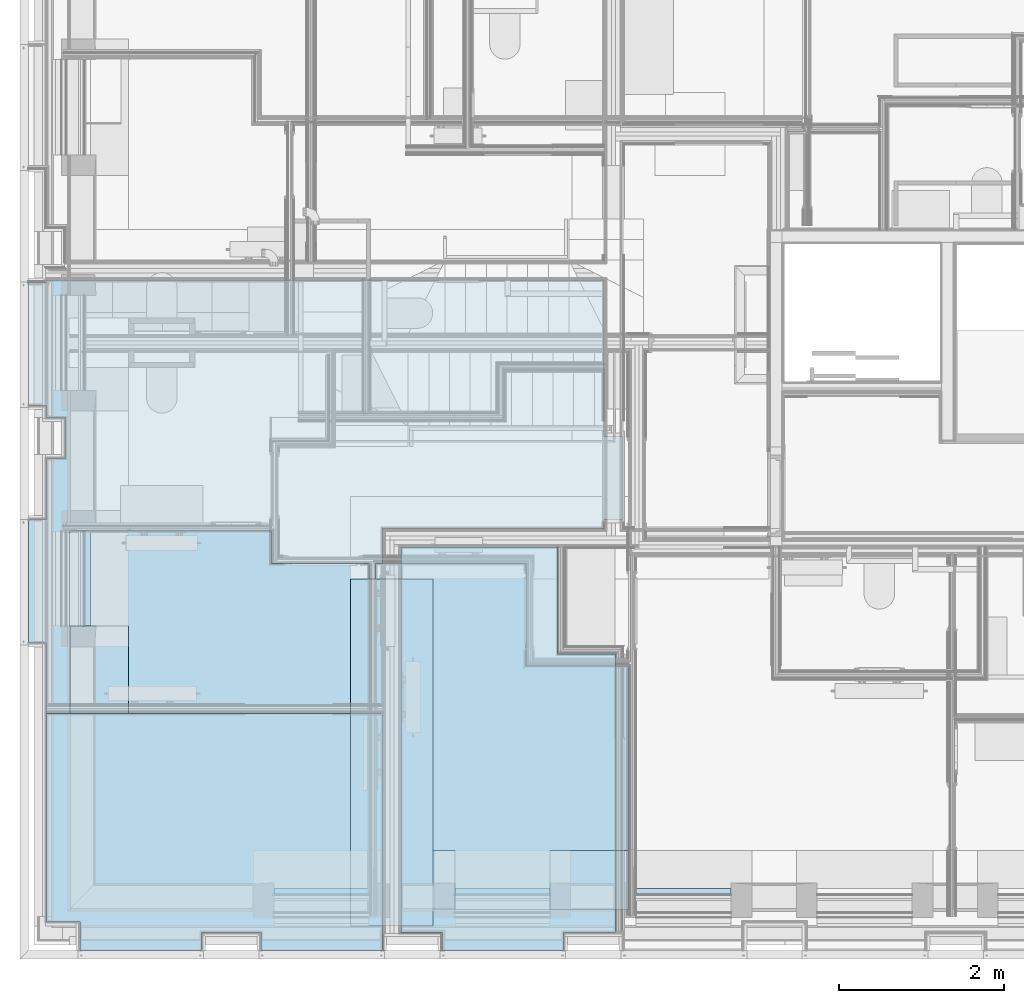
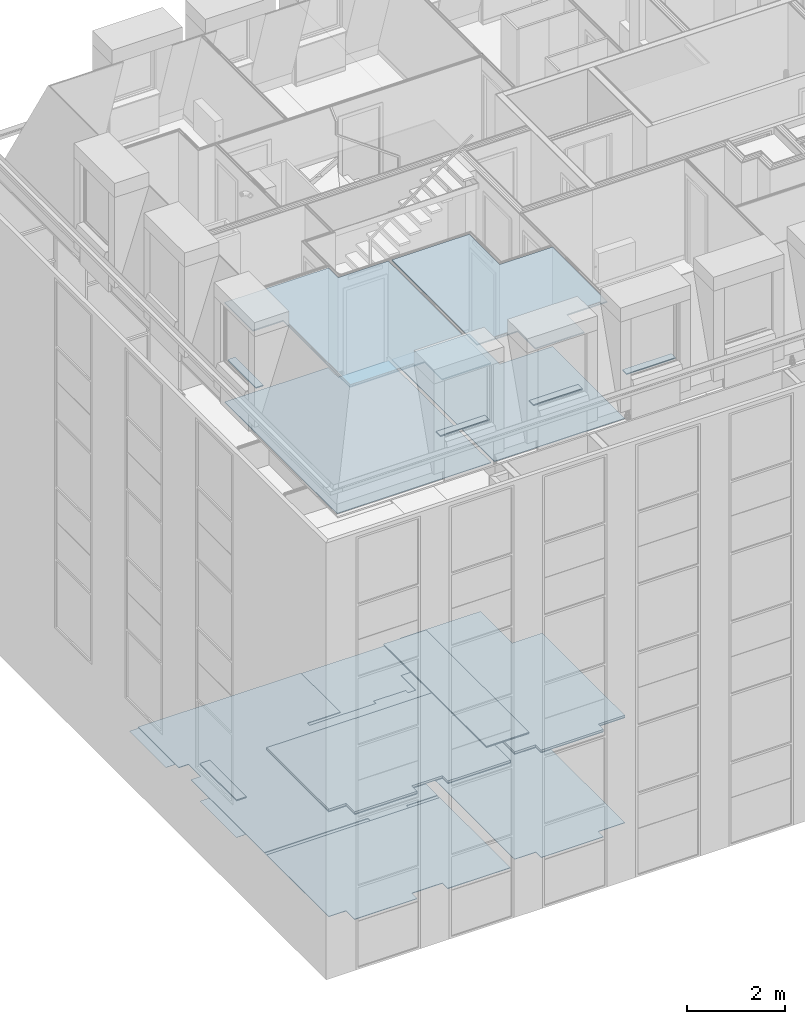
# One storey, part 68 of 169: 23 slabs.
"""IFC2X3 building model written with IfcOpenShell, lengths in metres."""

import ifcopenshell
import ifcopenshell.guid

model = None  # the IFC model being written
_history = None  # IfcOwnerHistory: only IFC2X3 demands one
_inside = {}  # id of a spatial element -> (the spatial element, [elements in it])
_under = {}  # id of a project, library or spatial element -> (it, [spatial elements below it])
_declared = {}  # id of a project -> (the project, [libraries it declares])
_typed = {}  # id of a type object -> (the type object, [elements of that type])
_made_of = {}  # id of a material, layer set ... -> (it, [elements and type objects made of it])


def new_model(schema):
    """Start an empty IFC model of exactly this schema.

    Asked for "IFC4X3", IfcOpenShell would pick the latest addendum, in which some entities
    have other attributes; the version numbers below select the first issue.
    IFC2X3 requires an IfcOwnerHistory on every rooted entity: one is made here for all.
    """
    global model, _history
    if schema == "IFC4X3":
        model = ifcopenshell.file(schema_version=(4, 3, 0, 0))
    else:
        model = ifcopenshell.file(schema=schema)
    _inside.clear()
    _under.clear()
    _declared.clear()
    _typed.clear()
    _made_of.clear()
    _history = None
    if model.schema == "IFC2X3":
        org = make("IfcOrganization", Name="unknown")
        user = make(
            "IfcPersonAndOrganization",
            ThePerson=make("IfcPerson", FamilyName="unknown"),
            TheOrganization=org,
        )
        app = make(
            "IfcApplication",
            ApplicationDeveloper=org,
            Version="unknown",
            ApplicationFullName="unknown",
            ApplicationIdentifier="unknown",
        )
        _history = make(
            "IfcOwnerHistory",
            OwningUser=user,
            OwningApplication=app,
            ChangeAction="ADDED",
            CreationDate=0,
        )
    return model


def make(cls, **values):
    """One entity of the class cls with the attributes given. An attribute that is None is left unset."""
    return model.create_entity(
        cls, **{name: value for name, value in values.items() if value is not None}
    )


def entity(cls, *values):
    """Any entity or typed value of the class cls, its attributes in the order of the schema. None: left unset."""
    e = model.create_entity(cls)
    for i, value in enumerate(values):
        if value is not None:
            e[i] = value
    return e


def rooted(cls, **values):
    """An entity with a GlobalId (a new one), such as an element, a storey or a relation."""
    return make(cls, GlobalId=ifcopenshell.guid.new(), OwnerHistory=_history, **values)


def si_unit(unit_type, name, prefix=None):
    """IfcSIUnit, for example si_unit("LENGTHUNIT", "METRE", prefix="MILLI")."""
    return make("IfcSIUnit", UnitType=unit_type, Prefix=prefix, Name=name)


def converted_unit(unit_type, name, factor, base, dimensions=None, offset=None):
    """IfcConversionBasedUnit, such as the inch: factor (a typed value) times the base unit."""
    return make(
        "IfcConversionBasedUnit"
        if offset is None
        else "IfcConversionBasedUnitWithOffset",
        ConversionOffset=offset,
        Dimensions=None
        if dimensions is None
        else entity("IfcDimensionalExponents", *dimensions),
        UnitType=unit_type,
        Name=name,
        ConversionFactor=make(
            "IfcMeasureWithUnit", ValueComponent=factor, UnitComponent=base
        ),
    )


def derived_unit(unit_type, elements):
    """IfcDerivedUnit: a product of units, each with its exponent."""
    return make(
        "IfcDerivedUnit",
        Elements=[
            make("IfcDerivedUnitElement", Unit=unit, Exponent=power)
            for unit, power in elements
        ],
        UnitType=unit_type,
    )


def money_unit(currency):
    """IfcMonetaryUnit."""
    return make("IfcMonetaryUnit", Currency=currency)


def assignment(units):
    """IfcUnitAssignment: the units of a project."""
    return None if units is None else make("IfcUnitAssignment", Units=units)


def point(xyz):
    """IfcCartesianPoint."""
    return None if xyz is None else make("IfcCartesianPoint", Coordinates=xyz)


def direction(xyz):
    """IfcDirection."""
    return None if xyz is None else make("IfcDirection", DirectionRatios=xyz)


def frame(location, z_axis=None, x_axis=None):
    """IfcAxis2Placement3D, a coordinate frame: its origin and axes. An axis left out is left unset."""
    return make(
        "IfcAxis2Placement3D",
        Location=point(location),
        Axis=direction(z_axis),
        RefDirection=direction(x_axis),
    )


def origin_with_axes():
    """The frame at (0, 0, 0) with the z axis (0, 0, 1) and the x axis (1, 0, 0) written out."""
    return frame((0.0, 0.0, 0.0), z_axis=(0.0, 0.0, 1.0), x_axis=(1.0, 0.0, 0.0))


def place(relative_to, where):
    """IfcLocalPlacement: puts the frame where relative to a parent placement (None: the world)."""
    return make(
        "IfcLocalPlacement", PlacementRelTo=relative_to, RelativePlacement=where
    )


def context(
    kind, dimensions, precision=None, world=None, true_north=None, identifier=None
):
    """IfcGeometricRepresentationContext, for example the 3D "Model" context."""
    return make(
        "IfcGeometricRepresentationContext",
        ContextIdentifier=identifier,
        ContextType=kind,
        CoordinateSpaceDimension=dimensions,
        Precision=precision,
        WorldCoordinateSystem=world,
        TrueNorth=true_north,
    )


def subcontext(parent, identifier, kind, view, scale=None):
    """IfcGeometricRepresentationSubContext, for example "Body" below "Model"."""
    return make(
        "IfcGeometricRepresentationSubContext",
        ContextIdentifier=identifier,
        ContextType=kind,
        ParentContext=parent,
        TargetScale=scale,
        TargetView=view,
    )


def project(units=None, contexts=None):
    """IfcProject with its units and contexts."""
    return rooted(
        "IfcProject",
        Name="project",
        RepresentationContexts=contexts,
        UnitsInContext=assignment(units),
    )


def spatial(cls, under=None, at=None, **own):
    """A site, building, storey or space (cls), placed at a placement, below another one or the project."""
    s = rooted(cls, ObjectPlacement=at, **own)
    if under is not None:
        _under.setdefault(under.id(), (under, []))[1].append(s)
    return s


def faces_of(points, faces, orient=None, outer=None):
    """IfcFace entities. A face is a list of loops; a loop is a list of indices into points, from 0.

    orient and outer hold one flag for each loop. By default every Orientation is true, the
    first loop of a face is its IfcFaceOuterBound and the others are IfcFaceBound.
    """
    made = []
    for i, loops in enumerate(faces):
        bounds = []
        for j, loop in enumerate(loops):
            is_outer = j == 0 if outer is None else outer[i][j]
            bounds.append(
                make(
                    "IfcFaceOuterBound" if is_outer else "IfcFaceBound",
                    Bound=make("IfcPolyLoop", Polygon=[points[k] for k in loop]),
                    Orientation=True if orient is None else orient[i][j],
                )
            )
        made.append(make("IfcFace", Bounds=bounds))
    return made


def faceted_brep(points, faces, orient=None, outer=None, voids=None):
    """IfcFacetedBrep: a solid bounded by flat faces; with voids (closed shells), ...WithVoids."""
    shared = [point(p) for p in points]
    hull = make("IfcClosedShell", CfsFaces=faces_of(shared, faces, orient, outer))
    if voids is None:
        return make("IfcFacetedBrep", Outer=hull)
    return make(
        "IfcFacetedBrepWithVoids",
        Outer=hull,
        Voids=[
            make(cls, CfsFaces=faces_of(shared, fs, o, b)) for cls, fs, o, b in voids
        ],
    )


def shape(context_of_items, identifier, shape_type, items):
    """IfcShapeRepresentation: the items that make up one representation, for example the "Body"."""
    return make(
        "IfcShapeRepresentation",
        ContextOfItems=context_of_items,
        RepresentationIdentifier=identifier,
        RepresentationType=shape_type,
        Items=items,
    )


def material(Name=None, Category=None):
    """IfcMaterial."""
    return make("IfcMaterial", Name=Name, Category=Category)


def made_of(thing, what):
    """Note that an element or type object is made of a material, layer set ...; save() writes the relation."""
    if what is not None:
        _made_of.setdefault(what.id(), (what, []))[1].append(thing)
    return thing


def type_object(cls, material=None, **own):
    """A type object (cls), such as IfcWallType, which elements share."""
    return made_of(rooted(cls, **own), material)


def element(
    cls,
    number,
    at=None,
    inside=None,
    cuts=None,
    type_object=None,
    material=None,
    context=None,
    identifier="Body",
    shape_type=None,
    held_by="IfcProductDefinitionShape",
    body=None,
    shapes=None,
    **own,
):
    """One element of the class cls, such as IfcWall. Its Tag is "e" and its number.

    at: its placement. inside: the storey or other place that contains it. cuts: it is an
    opening in that element (IfcRelVoidsElement). A single representation is given by context,
    identifier, shape_type and body (its items); several are given by shapes. held_by: the class
    of the entity that holds the representations. save() writes the other relations.
    """
    e = rooted(cls, Tag="e%d" % number, ObjectPlacement=at, **own)
    if body is not None:
        shapes = [shape(context, identifier, shape_type, body)]
    if shapes is not None:
        e.Representation = make(held_by, Representations=shapes)
    if inside is not None:
        _inside.setdefault(inside.id(), (inside, []))[1].append(e)
    if cuts is not None:
        rooted(
            "IfcRelVoidsElement", RelatingBuildingElement=cuts, RelatedOpeningElement=e
        )
    if type_object is not None:
        _typed.setdefault(type_object.id(), (type_object, []))[1].append(e)
    return made_of(e, material)


def aggregate(whole, parts):
    """IfcRelAggregates: a whole, such as a stair, and the parts it consists of."""
    return rooted("IfcRelAggregates", RelatingObject=whole, RelatedObjects=parts)


def save(model, path):
    """Write the relations noted so far, then the file.

    IfcRelAggregates (storeys below a building ...), IfcRelContainedInSpatialStructure (elements
    in a storey), IfcRelDefinesByType, IfcRelAssociatesMaterial and IfcRelDeclares: one each for
    every whole, place, type object, material and project.
    """
    for whole, parts in _under.values():
        aggregate(whole, parts)
    for where, things in _inside.values():
        rooted(
            "IfcRelContainedInSpatialStructure",
            RelatedElements=things,
            RelatingStructure=where,
        )
    for kind, things in _typed.values():
        rooted("IfcRelDefinesByType", RelatedObjects=things, RelatingType=kind)
    for what, things in _made_of.values():
        rooted("IfcRelAssociatesMaterial", RelatedObjects=things, RelatingMaterial=what)
    for by, libraries in _declared.values():
        rooted("IfcRelDeclares", RelatingContext=by, RelatedDefinitions=libraries)
    model.write(path)


model = new_model("IFC2X3")

# Units and contexts
model_context = context("Model", 3, precision=1e-05, world=origin_with_axes(), true_north=direction((0.0, 1.0)))
body_context = subcontext(model_context, "Body", "Model", "MODEL_VIEW", scale=1.0)
ifc_project = project(units=[si_unit("LENGTHUNIT", "METRE"), si_unit("AREAUNIT", "SQUARE_METRE"), si_unit("VOLUMEUNIT", "CUBIC_METRE"), si_unit("ABSORBEDDOSEUNIT", "GRAY"), si_unit("AMOUNTOFSUBSTANCEUNIT", "MOLE"), si_unit("DOSEEQUIVALENTUNIT", "SIEVERT"), si_unit("ELECTRICCAPACITANCEUNIT", "FARAD"), si_unit("ELECTRICCHARGEUNIT", "COULOMB"), si_unit("ELECTRICCONDUCTANCEUNIT", "SIEMENS"), si_unit("ELECTRICCURRENTUNIT", "AMPERE"), si_unit("ELECTRICRESISTANCEUNIT", "OHM"), si_unit("ELECTRICVOLTAGEUNIT", "VOLT"), si_unit("ENERGYUNIT", "JOULE"), si_unit("FORCEUNIT", "NEWTON"), si_unit("FREQUENCYUNIT", "HERTZ"), si_unit("ILLUMINANCEUNIT", "LUX"), si_unit("INDUCTANCEUNIT", "HENRY"), si_unit("LUMINOUSFLUXUNIT", "LUMEN"), si_unit("LUMINOUSINTENSITYUNIT", "CANDELA"), si_unit("MAGNETICFLUXDENSITYUNIT", "TESLA"), si_unit("MAGNETICFLUXUNIT", "WEBER"), si_unit("MASSUNIT", "GRAM"), converted_unit("PLANEANGLEUNIT", "degree", entity("IfcReal", 0.0174532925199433), si_unit("PLANEANGLEUNIT", "RADIAN"), dimensions=[0, 0, 0, 0, 0, 0, 0]), si_unit("POWERUNIT", "WATT"), si_unit("PRESSUREUNIT", "PASCAL"), si_unit("RADIOACTIVITYUNIT", "BECQUEREL"), si_unit("SOLIDANGLEUNIT", "STERADIAN"), si_unit("THERMODYNAMICTEMPERATUREUNIT", "KELVIN"), si_unit("TIMEUNIT", "SECOND"), derived_unit("ACCELERATIONUNIT", [(si_unit("LENGTHUNIT", "METRE"), 1), (si_unit("TIMEUNIT", "SECOND"), -2)]), derived_unit("ANGULARVELOCITYUNIT", [(converted_unit("PLANEANGLEUNIT", "degree", entity("IfcReal", 0.0174532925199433), si_unit("PLANEANGLEUNIT", "RADIAN"), dimensions=[0, 0, 0, 0, 0, 0, 0]), 1), (si_unit("TIMEUNIT", "SECOND"), -1)]), derived_unit("CURVATUREUNIT", [(converted_unit("PLANEANGLEUNIT", "degree", entity("IfcReal", 0.0174532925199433), si_unit("PLANEANGLEUNIT", "RADIAN"), dimensions=[0, 0, 0, 0, 0, 0, 0]), 1), (si_unit("LENGTHUNIT", "METRE"), -1)]), derived_unit("DYNAMICVISCOSITYUNIT", [(si_unit("PRESSUREUNIT", "PASCAL"), 1), (si_unit("TIMEUNIT", "SECOND"), 1)]), derived_unit("HEATFLUXDENSITYUNIT", [(si_unit("POWERUNIT", "WATT"), 1), (si_unit("LENGTHUNIT", "METRE"), -2)]), derived_unit("HEATINGVALUEUNIT", [(si_unit("ENERGYUNIT", "JOULE"), 1), (si_unit("MASSUNIT", "GRAM"), -1)]), derived_unit("INTEGERCOUNTRATEUNIT", [(si_unit("TIMEUNIT", "SECOND"), -1)]), derived_unit("IONCONCENTRATIONUNIT", [(si_unit("MASSUNIT", "GRAM"), 1), (si_unit("VOLUMEUNIT", "CUBIC_METRE"), -1)]), derived_unit("ISOTHERMALMOISTURECAPACITYUNIT", [(si_unit("VOLUMEUNIT", "CUBIC_METRE"), 1), (si_unit("MASSUNIT", "GRAM"), -1)]), derived_unit("KINEMATICVISCOSITYUNIT", [(si_unit("AREAUNIT", "SQUARE_METRE"), 1), (si_unit("TIMEUNIT", "SECOND"), -1)]), derived_unit("LINEARFORCEUNIT", [(si_unit("FORCEUNIT", "NEWTON"), 1), (si_unit("LENGTHUNIT", "METRE"), -1)]), derived_unit("LINEARMOMENTUNIT", [(si_unit("FORCEUNIT", "NEWTON"), 1), (si_unit("LENGTHUNIT", "METRE"), -1)]), derived_unit("LINEARSTIFFNESSUNIT", [(si_unit("FORCEUNIT", "NEWTON"), 1), (si_unit("LENGTHUNIT", "METRE"), -1)]), derived_unit("LINEARVELOCITYUNIT", [(si_unit("LENGTHUNIT", "METRE"), 1), (si_unit("TIMEUNIT", "SECOND"), -1)]), derived_unit("LUMINOUSINTENSITYDISTRIBUTIONUNIT", [(si_unit("LUMINOUSINTENSITYUNIT", "CANDELA"), 1), (si_unit("LUMINOUSFLUXUNIT", "LUMEN"), -1)]), derived_unit("MASSDENSITYUNIT", [(si_unit("MASSUNIT", "GRAM"), 1), (si_unit("VOLUMEUNIT", "CUBIC_METRE"), -1)]), derived_unit("MASSFLOWRATEUNIT", [(si_unit("MASSUNIT", "GRAM"), 1), (si_unit("TIMEUNIT", "SECOND"), -1)]), derived_unit("MASSPERLENGTHUNIT", [(si_unit("MASSUNIT", "GRAM"), 1), (si_unit("LENGTHUNIT", "METRE"), -1)]), derived_unit("MODULUSOFELASTICITYUNIT", [(si_unit("FORCEUNIT", "NEWTON"), 1), (si_unit("AREAUNIT", "SQUARE_METRE"), -1)]), derived_unit("MODULUSOFLINEARSUBGRADEREACTIONUNIT", [(si_unit("FORCEUNIT", "NEWTON"), 1), (si_unit("LENGTHUNIT", "METRE"), -2)]), derived_unit("MODULUSOFROTATIONALSUBGRADEREACTIONUNIT", [(si_unit("FORCEUNIT", "NEWTON"), 1), (si_unit("LENGTHUNIT", "METRE"), 1)]), derived_unit("MODULUSOFSUBGRADEREACTIONUNIT", [(si_unit("FORCEUNIT", "NEWTON"), 1), (si_unit("VOLUMEUNIT", "CUBIC_METRE"), -1)]), derived_unit("MOISTUREDIFFUSIVITYUNIT", [(si_unit("VOLUMEUNIT", "CUBIC_METRE"), 1), (si_unit("TIMEUNIT", "SECOND"), -1)]), derived_unit("MOLECULARWEIGHTUNIT", [(si_unit("MASSUNIT", "GRAM"), 1), (si_unit("AMOUNTOFSUBSTANCEUNIT", "MOLE"), -1)]), derived_unit("PLANARFORCEUNIT", [(si_unit("FORCEUNIT", "NEWTON"), 1), (si_unit("LENGTHUNIT", "METRE"), -2)]), derived_unit("ROTATIONALFREQUENCYUNIT", [(si_unit("TIMEUNIT", "SECOND"), -1)]), derived_unit("ROTATIONALMASSUNIT", [(si_unit("MASSUNIT", "GRAM"), 1), (si_unit("LENGTHUNIT", "METRE"), 2)]), derived_unit("ROTATIONALSTIFFNESSUNIT", [(si_unit("FORCEUNIT", "NEWTON"), 1), (si_unit("LENGTHUNIT", "METRE"), 1), (converted_unit("PLANEANGLEUNIT", "degree", entity("IfcReal", 0.0174532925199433), si_unit("PLANEANGLEUNIT", "RADIAN"), dimensions=[0, 0, 0, 0, 0, 0, 0]), -1)]), derived_unit("SECTIONAREAINTEGRALUNIT", [(si_unit("LENGTHUNIT", "METRE"), 5)]), derived_unit("SECTIONMODULUSUNIT", [(si_unit("LENGTHUNIT", "METRE"), 3)]), derived_unit("SHEARMODULUSUNIT", [(si_unit("FORCEUNIT", "NEWTON"), 1), (si_unit("AREAUNIT", "SQUARE_METRE"), -1)]), derived_unit("SOUNDPOWERUNIT", [(si_unit("ENERGYUNIT", "JOULE"), 1), (si_unit("TIMEUNIT", "SECOND"), -1)]), derived_unit("SPECIFICHEATCAPACITYUNIT", [(si_unit("FORCEUNIT", "NEWTON"), 1), (si_unit("MASSUNIT", "GRAM"), -1), (si_unit("THERMODYNAMICTEMPERATUREUNIT", "KELVIN"), -1)]), derived_unit("TEMPERATUREGRADIENTUNIT", [(si_unit("THERMODYNAMICTEMPERATUREUNIT", "KELVIN"), 1), (si_unit("LENGTHUNIT", "METRE"), -1)]), derived_unit("THERMALADMITTANCEUNIT", [(si_unit("POWERUNIT", "WATT"), 1), (si_unit("AREAUNIT", "SQUARE_METRE"), -1), (si_unit("THERMODYNAMICTEMPERATUREUNIT", "KELVIN"), -1)]), derived_unit("THERMALCONDUCTANCEUNIT", [(si_unit("POWERUNIT", "WATT"), 1), (si_unit("LENGTHUNIT", "METRE"), -1), (si_unit("THERMODYNAMICTEMPERATUREUNIT", "KELVIN"), -1)]), derived_unit("THERMALEXPANSIONCOEFFICIENTUNIT", [(si_unit("THERMODYNAMICTEMPERATUREUNIT", "KELVIN"), -1)]), derived_unit("THERMALRESISTANCEUNIT", [(si_unit("AREAUNIT", "SQUARE_METRE"), 1), (si_unit("POWERUNIT", "WATT"), -1)]), derived_unit("THERMALTRANSMITTANCEUNIT", [(si_unit("POWERUNIT", "WATT"), 1), (si_unit("AREAUNIT", "SQUARE_METRE"), -1), (si_unit("THERMODYNAMICTEMPERATUREUNIT", "KELVIN"), -1)]), derived_unit("TORQUEUNIT", [(si_unit("FORCEUNIT", "NEWTON"), 1), (si_unit("LENGTHUNIT", "METRE"), 1)]), derived_unit("VAPORPERMEABILITYUNIT", [(si_unit("MASSUNIT", "GRAM"), 1), (si_unit("TIMEUNIT", "SECOND"), -1)]), derived_unit("VOLUMETRICFLOWRATEUNIT", [(si_unit("VOLUMEUNIT", "CUBIC_METRE"), 1), (si_unit("TIMEUNIT", "SECOND"), -1)]), derived_unit("WARPINGCONSTANTUNIT", [(si_unit("LENGTHUNIT", "METRE"), 6)]), derived_unit("WARPINGMOMENTUNIT", [(si_unit("FORCEUNIT", "NEWTON"), 1), (si_unit("LENGTHUNIT", "METRE"), 2)]), money_unit("GBP")], contexts=[model_context])

# Site, building, storey
site_placement = place(None, origin_with_axes())
site = spatial("IfcSite", under=ifc_project, at=site_placement, Name="Site", CompositionType="ELEMENT")
building_placement = place(site_placement, origin_with_axes())
building = spatial("IfcBuilding", under=site, at=building_placement, Name="Building01", CompositionType="ELEMENT")
storey_placement = place(building_placement, frame((0.0, 0.0, 5.15), z_axis=(0.0, 0.0, 1.0), x_axis=(1.0, 0.0, 0.0)))
storey = spatial("IfcBuildingStorey", under=building, at=storey_placement, Name="1F", CompositionType="ELEMENT", Elevation=5.15)

# Slabs
ifc_material_1 = material(Name="A_BSUK_ExpandedPolystyreneBoards")
slab_type_1 = type_object("IfcSlabType", Name="A-FloorsSlabs A_BSUK_Slabs", PredefinedType="FLOOR")
placement = place(storey_placement, frame((0.0, 0.0, -5.15), z_axis=(0.0, 0.0, 1.0), x_axis=(1.0, 0.0, 0.0)))
element("IfcSlab", 1, at=placement, inside=storey, type_object=slab_type_1, material=ifc_material_1, Name="A-FloorsSlabs A_BSUK_Slabs", ObjectType="CompoundSlabLeaf", context=body_context, shape_type="Brep", body=[
    faceted_brep([(0.318, 8.21067, 5.15), (0.318, 8.21067, 5.153), (7.064669, 8.21067, 5.153), (7.064669, 8.21067, 5.15), (0.318, 8.185, 5.15), (0.318, 8.185, 5.153), (0.1, 8.185, 5.15), (0.1, 8.185, 5.153), (0.1, 6.69218, 5.15), (0.1, 6.69218, 5.153), (0.318, 6.69218, 5.15), (0.318, 6.69218, 5.153), (0.318, 6.548, 5.15), (0.318, 6.548, 5.153), (0.548, 6.548, 5.15), (0.548, 6.548, 5.153), (0.548, 6.052, 5.15), (0.548, 6.052, 5.153), (0.318, 6.052, 5.15), (0.318, 6.052, 5.153), (0.318, 5.315, 5.15), (0.318, 5.315, 5.153), (0.1, 5.315, 5.15), (0.1, 5.315, 5.153), (0.1, 3.82218, 5.15), (0.1, 3.82218, 5.153), (0.318, 3.82218, 5.15), (0.318, 3.82218, 5.153), (0.318, 0.448, 5.15), (0.318, 0.448, 5.153), (0.725, 0.448, 5.15), (0.725, 0.448, 5.153), (0.725, 0.1, 5.15), (0.725, 0.1, 5.153), (2.195, 0.1, 5.15), (2.195, 0.1, 5.153), (2.195, 0.318, 5.15), (2.195, 0.318, 5.153), (2.915, 0.318, 5.15), (2.915, 0.318, 5.153), (2.915, 0.1, 5.15), (2.915, 0.1, 5.153), (4.385, 0.1, 5.15), (4.385, 0.1, 5.153), (4.385, 0.318, 5.15), (4.385, 0.318, 5.153), (4.385, 5.205, 5.15), (4.385, 5.205, 5.153), (7.064669, 5.205, 5.15), (7.064669, 5.205, 5.153), (7.064669, 5.316475, 5.15), (7.064669, 5.316475, 5.153), (7.289669, 5.316475, 5.15), (7.289669, 5.316475, 5.153), (7.289669, 6.316475, 5.15), (7.289669, 6.316475, 5.153), (7.064669, 6.316475, 5.15), (7.064669, 6.316475, 5.153)], [[[0, 1, 2, 3]], [[4, 5, 1, 0]], [[6, 7, 5, 4]], [[8, 9, 7, 6]], [[10, 11, 9, 8]], [[12, 13, 11, 10]], [[14, 15, 13, 12]], [[16, 17, 15, 14]], [[18, 19, 17, 16]], [[20, 21, 19, 18]], [[22, 23, 21, 20]], [[24, 25, 23, 22]], [[26, 27, 25, 24]], [[28, 29, 27, 26]], [[30, 31, 29, 28]], [[32, 33, 31, 30]], [[34, 35, 33, 32]], [[36, 37, 35, 34]], [[38, 39, 37, 36]], [[40, 41, 39, 38]], [[42, 43, 41, 40]], [[44, 45, 43, 42]], [[46, 47, 45, 44]], [[48, 49, 47, 46]], [[50, 51, 49, 48]], [[52, 53, 51, 50]], [[54, 55, 53, 52]], [[56, 57, 55, 54]], [[3, 2, 57, 56]], [[1, 5, 7, 9, 11, 13, 15, 17, 19, 21, 23, 25, 27, 29, 31, 33, 35, 37, 39, 41, 43, 45, 47, 49, 51, 53, 55, 57, 2]], [[3, 56, 54, 52, 50, 48, 46, 44, 42, 40, 38, 36, 34, 32, 30, 28, 26, 24, 22, 20, 18, 16, 14, 12, 10, 8, 6, 4, 0]]]),
])
ifc_material_2 = material(Name="A_BSUK_Carpet-Pile")
element("IfcSlab", 2, at=placement, inside=storey, type_object=slab_type_1, material=ifc_material_2, Name="A-FloorsSlabs A_BSUK_Slabs", ObjectType="CompoundSlabLeaf", context=body_context, shape_type="Brep", body=[
    faceted_brep([(4.61, 4.98, 5.153), (4.61, 4.98, 5.165), (6.5, 4.98, 5.165), (6.5, 4.98, 5.153), (4.61, 0.318, 5.153), (4.61, 0.318, 5.165), (5.105, 0.318, 5.153), (5.105, 0.318, 5.165), (5.105, 0.1, 5.153), (5.105, 0.1, 5.165), (6.575, 0.1, 5.153), (6.575, 0.1, 5.165), (6.575, 0.318, 5.153), (6.575, 0.318, 5.165), (7.2, 0.318, 5.153), (7.2, 0.318, 5.165), (7.2, 3.685, 5.153), (7.2, 3.685, 5.165), (6.5, 3.685, 5.153), (6.5, 3.685, 5.165)], [[[0, 1, 2, 3]], [[4, 5, 1, 0]], [[6, 7, 5, 4]], [[8, 9, 7, 6]], [[10, 11, 9, 8]], [[12, 13, 11, 10]], [[14, 15, 13, 12]], [[16, 17, 15, 14]], [[18, 19, 17, 16]], [[3, 2, 19, 18]], [[1, 5, 7, 9, 11, 13, 15, 17, 19, 2]], [[3, 18, 16, 14, 12, 10, 8, 6, 4, 0]]]),
])
ifc_material_3 = material(Name="A_BSUK_Parquet_Floor")
element("IfcSlab", 3, at=placement, inside=storey, type_object=slab_type_1, material=ifc_material_3, Name="A-FloorsSlabs A_BSUK_Slabs", ObjectType="CompoundSlabLeaf", context=body_context, shape_type="Brep", body=[
    faceted_brep([(7.289669, 6.316475, 5.153), (7.289669, 6.316475, 5.165), (7.289669, 5.316475, 5.165), (7.289669, 5.316475, 5.153), (7.064669, 6.316475, 5.153), (7.064669, 6.316475, 5.165), (7.064669, 7.111475, 5.153), (7.064669, 7.111475, 5.165), (5.864669, 7.111475, 5.153), (5.864669, 7.111475, 5.165), (5.864669, 6.511475, 5.153), (5.864669, 6.511475, 5.165), (5.679088, 6.511475, 5.153), (5.679088, 6.511475, 5.165), (5.679088, 6.606475, 5.153), (5.679088, 6.606475, 5.165), (4.929088, 6.606475, 5.153), (4.929088, 6.606475, 5.165), (4.929088, 6.511475, 5.153), (4.929088, 6.511475, 5.165), (3.37073, 6.511475, 5.153), (3.37073, 6.511475, 5.165), (3.37073, 6.606475, 5.153), (3.37073, 6.606475, 5.165), (4.14573, 6.606475, 5.153), (4.14573, 6.606475, 5.165), (4.14573, 8.21067, 5.153), (4.14573, 8.21067, 5.165), (0.318, 8.21067, 5.153), (0.318, 8.21067, 5.165), (0.318, 8.185, 5.153), (0.318, 8.185, 5.165), (0.318, 6.69218, 5.153), (0.318, 6.69218, 5.165), (0.318, 6.548, 5.153), (0.318, 6.548, 5.165), (0.548, 6.548, 5.153), (0.548, 6.548, 5.165), (0.548, 6.052, 5.153), (0.548, 6.052, 5.165), (0.318, 6.052, 5.153), (0.318, 6.052, 5.165), (0.318, 5.315, 5.153), (0.318, 5.315, 5.165), (0.318, 3.82218, 5.153), (0.318, 3.82218, 5.165), (0.318, 3.065286, 5.153), (0.318, 3.065286, 5.165), (2.751, 3.065286, 5.153), (2.751, 3.065286, 5.165), (2.751, 2.970286, 5.153), (2.751, 2.970286, 5.165), (3.651, 2.970286, 5.153), (3.651, 2.970286, 5.165), (3.651, 3.065286, 5.153), (3.651, 3.065286, 5.165), (4.385, 3.065286, 5.153), (4.385, 3.065286, 5.165), (4.385, 5.205, 5.153), (4.385, 5.205, 5.165), (7.064669, 5.205, 5.153), (7.064669, 5.205, 5.165), (7.064669, 5.316475, 5.153), (7.064669, 5.316475, 5.165)], [[[0, 1, 2, 3]], [[4, 5, 1, 0]], [[6, 7, 5, 4]], [[8, 9, 7, 6]], [[10, 11, 9, 8]], [[12, 13, 11, 10]], [[14, 15, 13, 12]], [[16, 17, 15, 14]], [[18, 19, 17, 16]], [[20, 21, 19, 18]], [[22, 23, 21, 20]], [[24, 25, 23, 22]], [[26, 27, 25, 24]], [[28, 29, 27, 26]], [[30, 31, 29, 28]], [[32, 33, 31, 30]], [[34, 35, 33, 32]], [[36, 37, 35, 34]], [[38, 39, 37, 36]], [[40, 41, 39, 38]], [[42, 43, 41, 40]], [[44, 45, 43, 42]], [[46, 47, 45, 44]], [[48, 49, 47, 46]], [[50, 51, 49, 48]], [[52, 53, 51, 50]], [[54, 55, 53, 52]], [[56, 57, 55, 54]], [[58, 59, 57, 56]], [[60, 61, 59, 58]], [[62, 63, 61, 60]], [[3, 2, 63, 62]], [[1, 5, 7, 9, 11, 13, 15, 17, 19, 21, 23, 25, 27, 29, 31, 33, 35, 37, 39, 41, 43, 45, 47, 49, 51, 53, 55, 57, 59, 61, 63, 2]], [[3, 62, 60, 58, 56, 54, 52, 50, 48, 46, 44, 42, 40, 38, 36, 34, 32, 30, 28, 26, 24, 22, 20, 18, 16, 14, 12, 10, 8, 6, 4, 0]]]),
])
element("IfcSlab", 4, at=placement, inside=storey, type_object=slab_type_1, material=ifc_material_2, Name="A-FloorsSlabs A_BSUK_Slabs", ObjectType="CompoundSlabLeaf", context=body_context, shape_type="Brep", body=[
    faceted_brep([(0.318, 0.448, 5.153), (0.318, 0.448, 5.165), (0.318, 2.970286, 5.165), (0.318, 2.970286, 5.153), (0.725, 0.448, 5.153), (0.725, 0.448, 5.165), (0.725, 0.1, 5.153), (0.725, 0.1, 5.165), (2.195, 0.1, 5.153), (2.195, 0.1, 5.165), (2.195, 0.318, 5.153), (2.195, 0.318, 5.165), (2.915, 0.318, 5.153), (2.915, 0.318, 5.165), (2.915, 0.1, 5.153), (2.915, 0.1, 5.165), (4.385, 0.1, 5.153), (4.385, 0.1, 5.165), (4.385, 2.970286, 5.153), (4.385, 2.970286, 5.165)], [[[0, 1, 2, 3]], [[4, 5, 1, 0]], [[6, 7, 5, 4]], [[8, 9, 7, 6]], [[10, 11, 9, 8]], [[12, 13, 11, 10]], [[14, 15, 13, 12]], [[16, 17, 15, 14]], [[18, 19, 17, 16]], [[3, 2, 19, 18]], [[1, 5, 7, 9, 11, 13, 15, 17, 19, 2]], [[3, 18, 16, 14, 12, 10, 8, 6, 4, 0]]]),
])
ifc_material_4 = material(Name="A_BSUK_CeilingSoffitFinishes_Suspended")
element("IfcSlab", 5, at=placement, inside=storey, type_object=slab_type_1, material=ifc_material_4, Name="A-FloorsSlabs A_BSUK_Slabs", ObjectType="CompoundSlabLeaf", context=body_context, shape_type="Brep", body=[
    faceted_brep([(4.61, 4.98, 7.765), (4.61, 4.98, 7.78), (6.5, 4.98, 7.78), (6.5, 4.98, 7.765), (4.61, 0.318, 7.765), (4.61, 0.318, 7.78), (5.105, 0.318, 7.765), (5.105, 0.318, 7.78), (5.105, 0.1, 7.765), (5.105, 0.1, 7.78), (6.575, 0.1, 7.765), (6.575, 0.1, 7.78), (6.575, 0.318, 7.765), (6.575, 0.318, 7.78), (7.2, 0.318, 7.765), (7.2, 0.318, 7.78), (7.2, 3.685, 7.765), (7.2, 3.685, 7.78), (6.5, 3.685, 7.765), (6.5, 3.685, 7.78)], [[[0, 1, 2, 3]], [[4, 5, 1, 0]], [[6, 7, 5, 4]], [[8, 9, 7, 6]], [[10, 11, 9, 8]], [[12, 13, 11, 10]], [[14, 15, 13, 12]], [[16, 17, 15, 14]], [[18, 19, 17, 16]], [[3, 2, 19, 18]], [[1, 5, 7, 9, 11, 13, 15, 17, 19, 2]], [[3, 18, 16, 14, 12, 10, 8, 6, 4, 0]]]),
])
element("IfcSlab", 6, at=placement, inside=storey, type_object=slab_type_1, material=ifc_material_4, Name="A-FloorsSlabs A_BSUK_Slabs", ObjectType="CompoundSlabLeaf", context=body_context, shape_type="Brep", body=[
    faceted_brep([(0.318, 0.448, 7.765), (0.318, 0.448, 7.78), (0.318, 2.970286, 7.78), (0.318, 2.970286, 7.765), (0.725, 0.448, 7.765), (0.725, 0.448, 7.78), (0.725, 0.1, 7.765), (0.725, 0.1, 7.78), (2.195, 0.1, 7.765), (2.195, 0.1, 7.78), (2.195, 0.318, 7.765), (2.195, 0.318, 7.78), (2.915, 0.318, 7.765), (2.915, 0.318, 7.78), (2.915, 0.1, 7.765), (2.915, 0.1, 7.78), (4.385, 0.1, 7.765), (4.385, 0.1, 7.78), (4.385, 2.970286, 7.765), (4.385, 2.970286, 7.78)], [[[0, 1, 2, 3]], [[4, 5, 1, 0]], [[6, 7, 5, 4]], [[8, 9, 7, 6]], [[10, 11, 9, 8]], [[12, 13, 11, 10]], [[14, 15, 13, 12]], [[16, 17, 15, 14]], [[18, 19, 17, 16]], [[3, 2, 19, 18]], [[1, 5, 7, 9, 11, 13, 15, 17, 19, 2]], [[3, 18, 16, 14, 12, 10, 8, 6, 4, 0]]]),
])
ifc_material_5 = material(Name="A_BSUK_Timber_Miscellaneous")
element("IfcSlab", 7, at=placement, inside=storey, type_object=slab_type_1, material=ifc_material_5, Name="A-FloorsSlabs A_BSUK_Slabs", ObjectType="CompoundSlabLeaf", context=body_context, shape_type="Brep", body=[
    faceted_brep([(0.333, 3.82218, 6.065), (0.333, 3.82218, 6.09), (0.099998, 3.82218, 6.09), (0.099998, 3.82218, 6.065), (0.333, 5.315, 6.065), (0.333, 5.315, 6.09), (0.1, 5.315, 6.065), (0.1, 5.315, 6.09)], [[[0, 1, 2, 3]], [[4, 5, 1, 0]], [[6, 7, 5, 4]], [[3, 2, 7, 6]], [[1, 5, 7, 2]], [[3, 6, 4, 0]]]),
])
element("IfcSlab", 8, at=placement, inside=storey, type_object=slab_type_1, material=ifc_material_4, Name="A-FloorsSlabs A_BSUK_Slabs", ObjectType="CompoundSlabLeaf", context=body_context, shape_type="Brep", body=[
    faceted_brep([(3.997, 0.4, 8.115), (3.997, 0.4, 8.13), (3.997, 4.593, 8.13), (3.997, 4.593, 8.115), (4.997, 0.4, 8.115), (4.997, 0.4, 8.13), (4.997, 4.593, 8.115), (4.997, 4.593, 8.13)], [[[0, 1, 2, 3]], [[4, 5, 1, 0]], [[6, 7, 5, 4]], [[3, 2, 7, 6]], [[1, 5, 7, 2]], [[3, 6, 4, 0]]]),
])
element("IfcSlab", 9, at=placement, inside=storey, type_object=slab_type_1, material=ifc_material_4, Name="A-FloorsSlabs A_BSUK_Slabs", ObjectType="CompoundSlabLeaf", context=body_context, shape_type="Brep", body=[
    faceted_brep([(3.997, 0.4, 8.1), (3.997, 0.4, 8.115), (3.997, 4.593, 8.115), (3.997, 4.593, 8.1), (4.997, 0.4, 8.1), (4.997, 0.4, 8.115), (4.997, 4.593, 8.1), (4.997, 4.593, 8.115)], [[[0, 1, 2, 3]], [[4, 5, 1, 0]], [[6, 7, 5, 4]], [[3, 2, 7, 6]], [[1, 5, 7, 2]], [[3, 6, 4, 0]]]),
])
element("IfcSlab", 10, at=placement, inside=storey, type_object=slab_type_1, material=ifc_material_4, Name="A-FloorsSlabs A_BSUK_Slabs", ObjectType="CompoundSlabLeaf", context=body_context, shape_type="Brep", body=[
    faceted_brep([(7.36, 3.539939, 17.423), (7.36, 3.539939, 17.438), (7.36, 1.312402, 17.438), (7.36, 1.312402, 17.423), (6.120098, 3.539939, 17.423), (6.120098, 3.539939, 17.438), (6.120098, 4.779939, 17.423), (6.120098, 4.779939, 17.438), (4.299976, 4.779939, 17.423), (4.299976, 4.779939, 17.438), (4.299976, 1.312402, 17.423), (4.299976, 1.312402, 17.438), (5.260024, 1.312402, 17.423), (5.260024, 1.312402, 17.438), (5.260024, 0.599939, 17.423), (5.260024, 0.599939, 17.438), (6.409976, 0.599939, 17.423), (6.409976, 0.599939, 17.438), (6.409976, 1.312402, 17.423), (6.409976, 1.312402, 17.438)], [[[0, 1, 2, 3]], [[4, 5, 1, 0]], [[6, 7, 5, 4]], [[8, 9, 7, 6]], [[10, 11, 9, 8]], [[12, 13, 11, 10]], [[14, 15, 13, 12]], [[16, 17, 15, 14]], [[18, 19, 17, 16]], [[3, 2, 19, 18]], [[1, 5, 7, 9, 11, 13, 15, 17, 19, 2]], [[3, 18, 16, 14, 12, 10, 8, 6, 4, 0]]]),
])
element("IfcSlab", 11, at=placement, inside=storey, type_object=slab_type_1, material=ifc_material_4, Name="A-FloorsSlabs A_BSUK_Slabs", ObjectType="CompoundSlabLeaf", context=body_context, shape_type="Brep", body=[
    faceted_brep([(4.219976, 4.779939, 17.423), (4.219976, 4.779939, 17.438), (4.219976, 0.599939, 17.438), (4.219976, 0.599939, 17.423), (3.039976, 4.779939, 17.423), (3.039976, 4.779939, 17.438), (3.039976, 5.174915, 17.423), (3.039976, 5.174915, 17.438), (0.599939, 5.174915, 17.423), (0.599939, 5.174915, 17.438), (0.599939, 4.024964, 17.423), (0.599939, 4.024964, 17.438), (1.312402, 4.024964, 17.423), (1.312402, 4.024964, 17.438), (1.312402, 1.312402, 17.423), (1.312402, 1.312402, 17.438), (3.070024, 1.312402, 17.423), (3.070024, 1.312402, 17.438), (3.070024, 0.599939, 17.423), (3.070024, 0.599939, 17.438)], [[[0, 1, 2, 3]], [[4, 5, 1, 0]], [[6, 7, 5, 4]], [[8, 9, 7, 6]], [[10, 11, 9, 8]], [[12, 13, 11, 10]], [[14, 15, 13, 12]], [[16, 17, 15, 14]], [[18, 19, 17, 16]], [[3, 2, 19, 18]], [[1, 5, 7, 9, 11, 13, 15, 17, 19, 2]], [[3, 18, 16, 14, 12, 10, 8, 6, 4, 0]]]),
])
element("IfcSlab", 12, at=placement, inside=storey, type_object=slab_type_1, material=ifc_material_1, Name="A-FloorsSlabs A_BSUK_Slabs", ObjectType="CompoundSlabLeaf", context=body_context, shape_type="Brep", body=[
    faceted_brep([(7.36, 3.539939, 14.965), (7.36, 3.539939, 14.968), (7.36, 0.599916, 14.968), (7.36, 0.599916, 14.965), (6.120098, 3.539939, 14.965), (6.120098, 3.539939, 14.968), (6.120098, 4.779939, 14.965), (6.120098, 4.779939, 14.968), (4.299976, 4.779939, 14.965), (4.299976, 4.779939, 14.968), (4.299976, 0.6038, 14.965), (4.299976, 0.6038, 14.968), (5.260024, 0.6038, 14.965), (5.260024, 0.6038, 14.968), (6.409976, 0.6038, 14.965), (6.409976, 0.6038, 14.968), (6.409976, 0.599916, 14.965), (6.409976, 0.599916, 14.968)], [[[0, 1, 2, 3]], [[4, 5, 1, 0]], [[6, 7, 5, 4]], [[8, 9, 7, 6]], [[10, 11, 9, 8]], [[12, 13, 11, 10]], [[14, 15, 13, 12]], [[16, 17, 15, 14]], [[3, 2, 17, 16]], [[1, 5, 7, 9, 11, 13, 15, 17, 2]], [[3, 16, 14, 12, 10, 8, 6, 4, 0]]]),
])
element("IfcSlab", 13, at=placement, inside=storey, type_object=slab_type_1, material=ifc_material_1, Name="A-FloorsSlabs A_BSUK_Slabs", ObjectType="CompoundSlabLeaf", context=body_context, shape_type="Brep", body=[
    faceted_brep([(4.219976, 4.779939, 14.965), (4.219976, 4.779939, 14.968), (4.219976, 0.6038, 14.968), (4.219976, 0.6038, 14.965), (3.039976, 4.779939, 14.965), (3.039976, 4.779939, 14.968), (3.039976, 5.174915, 14.965), (3.039976, 5.174915, 14.968), (0.6038, 5.174915, 14.965), (0.6038, 5.174915, 14.968), (0.6038, 4.024964, 14.965), (0.6038, 4.024964, 14.968), (0.6038, 0.6038, 14.965), (0.6038, 0.6038, 14.968), (3.070024, 0.6038, 14.965), (3.070024, 0.6038, 14.968)], [[[0, 1, 2, 3]], [[4, 5, 1, 0]], [[6, 7, 5, 4]], [[8, 9, 7, 6]], [[10, 11, 9, 8]], [[12, 13, 11, 10]], [[14, 15, 13, 12]], [[3, 2, 15, 14]], [[1, 5, 7, 9, 11, 13, 15, 2]], [[3, 14, 12, 10, 8, 6, 4, 0]]]),
])
element("IfcSlab", 14, at=placement, inside=storey, type_object=slab_type_1, material=ifc_material_5, Name="A-FloorsSlabs A_BSUK_Slabs", ObjectType="CompoundSlabLeaf", context=body_context, shape_type="Brep", body=[
    faceted_brep([(0.849939, 4.024964, 15.98), (0.849939, 4.024964, 16.005), (0.675339, 4.024915, 16.005), (0.675339, 4.024915, 15.98), (0.849939, 5.174964, 15.98), (0.849939, 5.174964, 16.005), (0.675339, 5.174964, 15.98), (0.675339, 5.174964, 16.005)], [[[0, 1, 2, 3]], [[4, 5, 1, 0]], [[6, 7, 5, 4]], [[3, 2, 7, 6]], [[1, 5, 7, 2]], [[3, 6, 4, 0]]]),
])
element("IfcSlab", 15, at=placement, inside=storey, type_object=slab_type_1, material=ifc_material_5, Name="A-FloorsSlabs A_BSUK_Slabs", ObjectType="CompoundSlabLeaf", context=body_context, shape_type="Brep", body=[
    faceted_brep([(4.220024, 0.849939, 15.98), (4.220024, 0.849939, 16.005), (4.220024, 0.675339, 16.005), (4.220024, 0.675339, 15.98), (3.070024, 0.849939, 15.98), (3.070024, 0.849939, 16.005), (3.070025, 0.675339, 15.98), (3.070025, 0.675339, 16.005)], [[[0, 1, 2, 3]], [[4, 5, 1, 0]], [[6, 7, 5, 4]], [[3, 2, 7, 6]], [[1, 5, 7, 2]], [[3, 6, 4, 0]]]),
])
element("IfcSlab", 16, at=placement, inside=storey, type_object=slab_type_1, material=ifc_material_5, Name="A-FloorsSlabs A_BSUK_Slabs", ObjectType="CompoundSlabLeaf", context=body_context, shape_type="Brep", body=[
    faceted_brep([(6.410024, 0.849939, 15.98), (6.410024, 0.849939, 16.005), (6.410024, 0.675339, 16.005), (6.410024, 0.675339, 15.98), (5.260024, 0.849939, 15.98), (5.260024, 0.849939, 16.005), (5.260025, 0.675339, 15.98), (5.260025, 0.675339, 16.005)], [[[0, 1, 2, 3]], [[4, 5, 1, 0]], [[6, 7, 5, 4]], [[3, 2, 7, 6]], [[1, 5, 7, 2]], [[3, 6, 4, 0]]]),
])
element("IfcSlab", 17, at=placement, inside=storey, type_object=slab_type_1, material=ifc_material_5, Name="A-FloorsSlabs A_BSUK_Slabs", ObjectType="CompoundSlabLeaf", context=body_context, shape_type="Brep", body=[
    faceted_brep([(8.600024, 0.849939, 15.98), (8.600024, 0.849939, 16.005), (8.600024, 0.675339, 16.005), (8.600024, 0.675339, 15.98), (7.450024, 0.849939, 15.98), (7.450024, 0.849939, 16.005), (7.450025, 0.675339, 15.98), (7.450025, 0.675339, 16.005)], [[[0, 1, 2, 3]], [[4, 5, 1, 0]], [[6, 7, 5, 4]], [[3, 2, 7, 6]], [[1, 5, 7, 2]], [[3, 6, 4, 0]]]),
])
element("IfcSlab", 18, at=placement, inside=storey, type_object=slab_type_1, material=ifc_material_4, Name="A-FloorsSlabs A_BSUK_Slabs", ObjectType="CompoundSlabLeaf", context=body_context, shape_type="Brep", body=[
    faceted_brep([(7.36, 3.539939, 17.438), (7.36, 3.539939, 17.453), (7.36, 1.312402, 17.453), (7.36, 1.312402, 17.438), (6.120098, 3.539939, 17.438), (6.120098, 3.539939, 17.453), (6.120098, 4.779939, 17.438), (6.120098, 4.779939, 17.453), (4.299976, 4.779939, 17.438), (4.299976, 4.779939, 17.453), (4.299976, 1.312402, 17.438), (4.299976, 1.312402, 17.453), (5.260024, 1.312402, 17.438), (5.260024, 1.312402, 17.453), (5.260024, 0.599939, 17.438), (5.260024, 0.599939, 17.453), (6.409976, 0.599939, 17.438), (6.409976, 0.599939, 17.453), (6.409976, 1.312402, 17.438), (6.409976, 1.312402, 17.453)], [[[0, 1, 2, 3]], [[4, 5, 1, 0]], [[6, 7, 5, 4]], [[8, 9, 7, 6]], [[10, 11, 9, 8]], [[12, 13, 11, 10]], [[14, 15, 13, 12]], [[16, 17, 15, 14]], [[18, 19, 17, 16]], [[3, 2, 19, 18]], [[1, 5, 7, 9, 11, 13, 15, 17, 19, 2]], [[3, 18, 16, 14, 12, 10, 8, 6, 4, 0]]]),
])
element("IfcSlab", 19, at=placement, inside=storey, type_object=slab_type_1, material=ifc_material_4, Name="A-FloorsSlabs A_BSUK_Slabs", ObjectType="CompoundSlabLeaf", context=body_context, shape_type="Brep", body=[
    faceted_brep([(4.219976, 4.779939, 17.438), (4.219976, 4.779939, 17.453), (4.219976, 0.599939, 17.453), (4.219976, 0.599939, 17.438), (3.039976, 4.779939, 17.438), (3.039976, 4.779939, 17.453), (3.039976, 5.174915, 17.438), (3.039976, 5.174915, 17.453), (0.599939, 5.174915, 17.438), (0.599939, 5.174915, 17.453), (0.599939, 4.024964, 17.438), (0.599939, 4.024964, 17.453), (1.312402, 4.024964, 17.438), (1.312402, 4.024964, 17.453), (1.312402, 1.312402, 17.438), (1.312402, 1.312402, 17.453), (3.070024, 1.312402, 17.438), (3.070024, 1.312402, 17.453), (3.070024, 0.599939, 17.438), (3.070024, 0.599939, 17.453)], [[[0, 1, 2, 3]], [[4, 5, 1, 0]], [[6, 7, 5, 4]], [[8, 9, 7, 6]], [[10, 11, 9, 8]], [[12, 13, 11, 10]], [[14, 15, 13, 12]], [[16, 17, 15, 14]], [[18, 19, 17, 16]], [[3, 2, 19, 18]], [[1, 5, 7, 9, 11, 13, 15, 17, 19, 2]], [[3, 18, 16, 14, 12, 10, 8, 6, 4, 0]]]),
])
slab_type_2 = type_object("IfcSlabType", Name="A-FloorsSlabs A_BSUK_ExpandedPolystyreneBoards", PredefinedType="FLOOR")
element("IfcSlab", 20, at=placement, inside=storey, type_object=slab_type_2, material=ifc_material_1, Name="A-FloorsSlabs A_BSUK_ExpandedPolystyreneBoards", ObjectType="CompoundSlabLeaf", context=body_context, shape_type="Brep", body=[
    faceted_brep([(4.61, 4.98, 7.78), (4.61, 4.98, 7.83), (6.5, 4.98, 7.83), (6.5, 4.98, 7.78), (4.61, 0.318, 7.78), (4.61, 0.318, 7.83), (5.105, 0.318, 7.78), (5.105, 0.318, 7.83), (5.105, 0.1, 7.78), (5.105, 0.1, 7.83), (6.575, 0.1, 7.78), (6.575, 0.1, 7.83), (6.575, 0.318, 7.78), (6.575, 0.318, 7.83), (7.2, 0.318, 7.78), (7.2, 0.318, 7.83), (7.2, 3.685, 7.78), (7.2, 3.685, 7.83), (6.5, 3.685, 7.78), (6.5, 3.685, 7.83)], [[[0, 1, 2, 3]], [[4, 5, 1, 0]], [[6, 7, 5, 4]], [[8, 9, 7, 6]], [[10, 11, 9, 8]], [[12, 13, 11, 10]], [[14, 15, 13, 12]], [[16, 17, 15, 14]], [[18, 19, 17, 16]], [[3, 2, 19, 18]], [[1, 5, 7, 9, 11, 13, 15, 17, 19, 2]], [[3, 18, 16, 14, 12, 10, 8, 6, 4, 0]]]),
])
element("IfcSlab", 21, at=placement, inside=storey, type_object=slab_type_2, material=ifc_material_1, Name="A-FloorsSlabs A_BSUK_ExpandedPolystyreneBoards", ObjectType="CompoundSlabLeaf", context=body_context, shape_type="Brep", body=[
    faceted_brep([(0.318, 0.448, 7.78), (0.318, 0.448, 7.83), (0.318, 2.970286, 7.83), (0.318, 2.970286, 7.78), (0.725, 0.448, 7.78), (0.725, 0.448, 7.83), (0.725, 0.1, 7.78), (0.725, 0.1, 7.83), (2.195, 0.1, 7.78), (2.195, 0.1, 7.83), (2.195, 0.318, 7.78), (2.195, 0.318, 7.83), (2.915, 0.318, 7.78), (2.915, 0.318, 7.83), (2.915, 0.1, 7.78), (2.915, 0.1, 7.83), (4.385, 0.1, 7.78), (4.385, 0.1, 7.83), (4.385, 2.970286, 7.78), (4.385, 2.970286, 7.83)], [[[0, 1, 2, 3]], [[4, 5, 1, 0]], [[6, 7, 5, 4]], [[8, 9, 7, 6]], [[10, 11, 9, 8]], [[12, 13, 11, 10]], [[14, 15, 13, 12]], [[16, 17, 15, 14]], [[18, 19, 17, 16]], [[3, 2, 19, 18]], [[1, 5, 7, 9, 11, 13, 15, 17, 19, 2]], [[3, 18, 16, 14, 12, 10, 8, 6, 4, 0]]]),
])
slab_type_3 = type_object("IfcSlabType", Name="A-Finishes A_BSUK_Carpet-Pile", PredefinedType="FLOOR")
element("IfcSlab", 22, at=placement, inside=storey, type_object=slab_type_3, material=ifc_material_2, Name="A-Finishes A_BSUK_Carpet-Pile", ObjectType="CompoundSlabLeaf", context=body_context, shape_type="Brep", body=[
    faceted_brep([(7.36, 3.539939, 14.968), (7.36, 3.539939, 14.98), (7.36, 0.599916, 14.98), (7.36, 0.599916, 14.968), (6.120098, 3.539939, 14.968), (6.120098, 3.539939, 14.98), (6.120098, 4.779939, 14.968), (6.120098, 4.779939, 14.98), (4.299976, 4.779939, 14.968), (4.299976, 4.779939, 14.98), (4.299976, 0.6038, 14.968), (4.299976, 0.6038, 14.98), (5.260024, 0.6038, 14.968), (5.260024, 0.6038, 14.98), (6.409976, 0.6038, 14.968), (6.409976, 0.6038, 14.98), (6.409976, 0.599916, 14.968), (6.409976, 0.599916, 14.98)], [[[0, 1, 2, 3]], [[4, 5, 1, 0]], [[6, 7, 5, 4]], [[8, 9, 7, 6]], [[10, 11, 9, 8]], [[12, 13, 11, 10]], [[14, 15, 13, 12]], [[16, 17, 15, 14]], [[3, 2, 17, 16]], [[1, 5, 7, 9, 11, 13, 15, 17, 2]], [[3, 16, 14, 12, 10, 8, 6, 4, 0]]]),
])
element("IfcSlab", 23, at=placement, inside=storey, type_object=slab_type_3, material=ifc_material_2, Name="A-Finishes A_BSUK_Carpet-Pile", ObjectType="CompoundSlabLeaf", context=body_context, shape_type="Brep", body=[
    faceted_brep([(4.219976, 4.779939, 14.968), (4.219976, 4.779939, 14.98), (4.219976, 0.6038, 14.98), (4.219976, 0.6038, 14.968), (3.039976, 4.779939, 14.968), (3.039976, 4.779939, 14.98), (3.039976, 5.174915, 14.968), (3.039976, 5.174915, 14.98), (0.6038, 5.174915, 14.968), (0.6038, 5.174915, 14.98), (0.6038, 4.024964, 14.968), (0.6038, 4.024964, 14.98), (0.6038, 0.6038, 14.968), (0.6038, 0.6038, 14.98), (3.070024, 0.6038, 14.968), (3.070024, 0.6038, 14.98)], [[[0, 1, 2, 3]], [[4, 5, 1, 0]], [[6, 7, 5, 4]], [[8, 9, 7, 6]], [[10, 11, 9, 8]], [[12, 13, 11, 10]], [[14, 15, 13, 12]], [[3, 2, 15, 14]], [[1, 5, 7, 9, 11, 13, 15, 2]], [[3, 14, 12, 10, 8, 6, 4, 0]]]),
])

save(model, "model.ifc")
